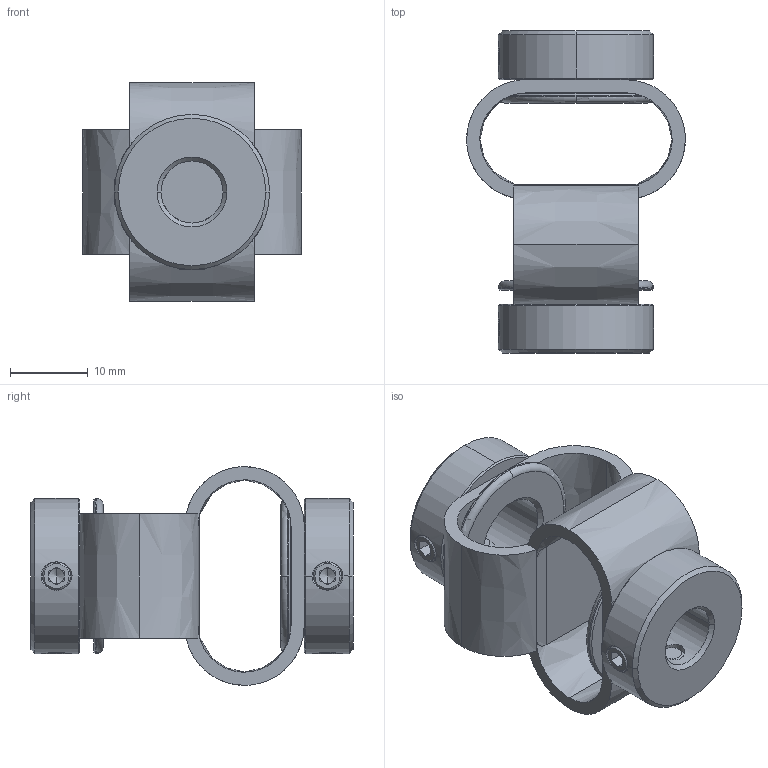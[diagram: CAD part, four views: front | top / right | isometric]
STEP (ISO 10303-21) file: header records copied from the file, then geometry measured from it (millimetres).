
FILE_DESCRIPTION (( 'STEP AP203' ), '1' );
FILE_NAME ('LS-D-D27L40-8-10.STEP', '2021-10-28T06:39:04', ( '' ), ( '' ), 'SwSTEP 2.0', 'SolidWorks 2018', '' );
FILE_SCHEMA (( 'CONFIG_CONTROL_DESIGN' ));
Length unit declared in the file: millimetre
Products named in the file (1): LS-D-D27L40-8-10
Bounding box: 28.2 x 41.54 x 28.2 mm (x, y, z)
Volume: 6685.7 mm3; surface area: 6671.2 mm2
Topology: 1 solids, 1 shells, 202 faces, 520 edges, 324 vertices
Faces by surface type: plane 86, cone 66, cylinder 30, bspline 16, torus 4
Entity records: 8075 total; most frequent: CARTESIAN_POINT 3263, ORIENTED_EDGE 1024, DIRECTION 930, EDGE_CURVE 512, AXIS2_PLACEMENT_3D 365, VERTEX_POINT 324, EDGE_LOOP 230, FACE_OUTER_BOUND 202
